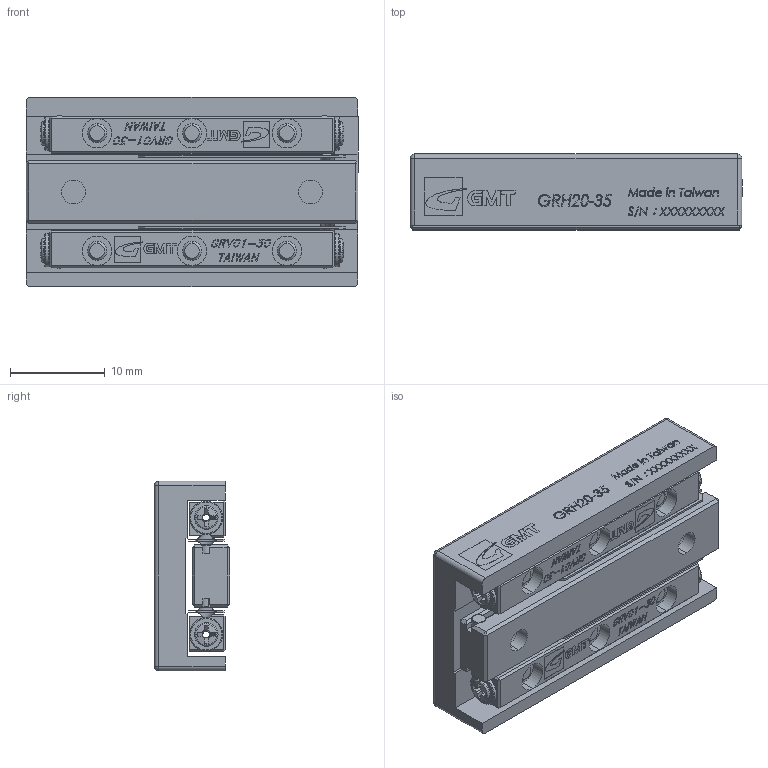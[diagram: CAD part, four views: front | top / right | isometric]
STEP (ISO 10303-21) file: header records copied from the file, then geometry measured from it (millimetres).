
FILE_DESCRIPTION (( 'STEP AP203' ), '1' );
FILE_NAME ('GRH20-35.STEP', '2012-10-20T08:22:50', ( '123' ), ( '' ), 'SwSTEP 2.0', 'SolidWorks 2012', '' );
FILE_SCHEMA (( 'CONFIG_CONTROL_DESIGN' ));
Length unit declared in the file: millimetre
Products named in the file (1): GRH20-35
Bounding box: 35 x 8 x 20 mm (x, y, z)
Surface area: 4560.9 mm2 (no closed solid volume)
Topology: 0 solids, 36 shells, 1055 faces, 4902 edges, 3660 vertices
Faces by surface type: plane 743, cylinder 140, bspline 68, cone 46, torus 46, sphere 12
Entity records: 55500 total; most frequent: CARTESIAN_POINT 18442, ORIENTED_EDGE 7014, DIRECTION 6856, EDGE_CURVE 4886, VERTEX_POINT 3660, LINE 3336, VECTOR 3336, AXIS2_PLACEMENT_3D 1760
